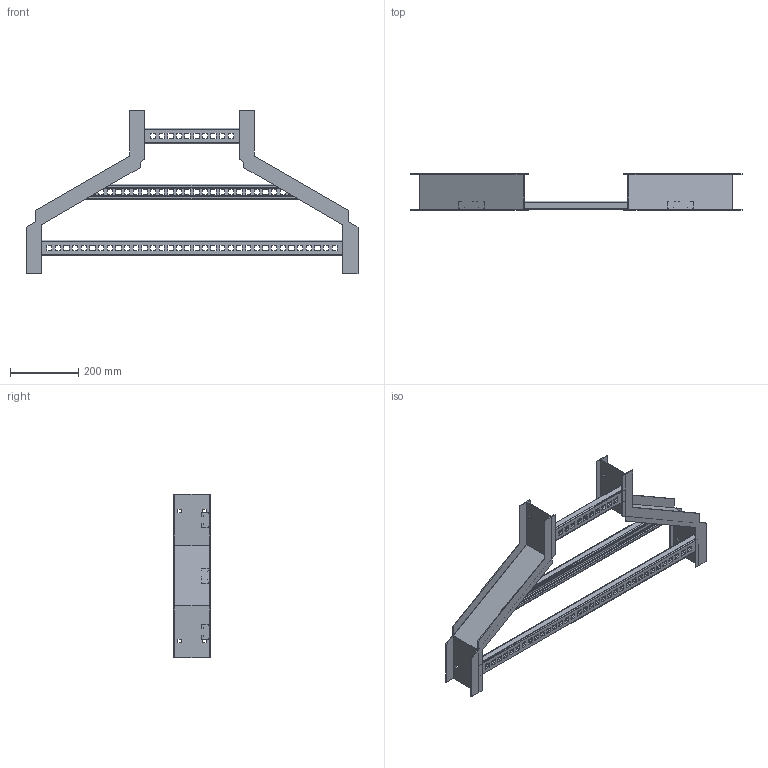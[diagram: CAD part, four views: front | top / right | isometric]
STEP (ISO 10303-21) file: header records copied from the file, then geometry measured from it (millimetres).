
FILE_DESCRIPTION((''),'2;1');
FILE_NAME('AHF43612VHSR_ASM','2010-01-27T',('erouzier'),(''),'PRO/ENGINEER BY PARAMETRIC TECHNOLOGY CORPORATION, 2008510','PRO/ENGINEER BY PARAMETRIC TECHNOLOGY CORPORATION, 2008510','');
FILE_SCHEMA(('CONFIG_CONTROL_DESIGN'));
Length unit declared in the file: inch
Products named in the file (5): CDS013867-4-120; CDS002159L36-P; CDS002159L30-P_AF1; CDS002159L12-P_AF1; AHF43612VHSR_ASM
Assembly tree (5 placements, depth 2):
  AHF43612VHSR_ASM
    CDS013867-4-120  x2
    CDS002159L36-P
    CDS002159L30-P_AF1
    CDS002159L12-P_AF1
Bounding box: 974.6 x 106.43 x 480.78 mm (x, y, z)
Volume: 717054.5 mm3; surface area: 902598.8 mm2
Topology: 5 solids, 5 shells, 750 faces, 2196 edges, 1456 vertices
Faces by surface type: plane 445, cylinder 305
Entity records: 23831 total; most frequent: CARTESIAN_POINT 4302, ORIENTED_EDGE 4104, DIRECTION 4030, EDGE_CURVE 2052, VECTOR 1442, LINE 1442, VERTEX_POINT 1364, AXIS2_PLACEMENT_3D 1294
